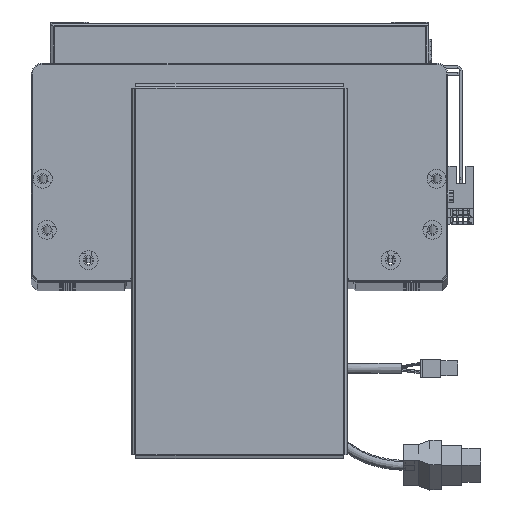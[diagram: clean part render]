
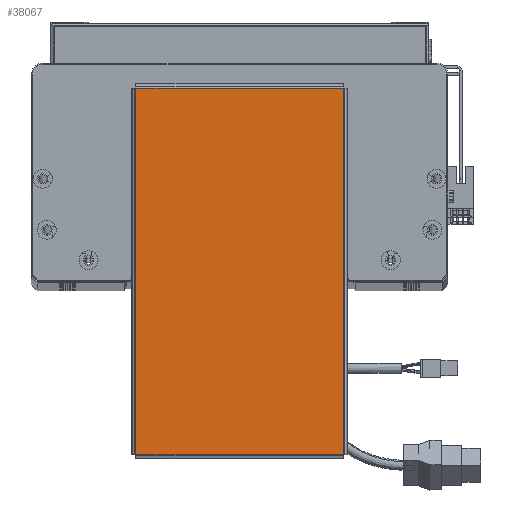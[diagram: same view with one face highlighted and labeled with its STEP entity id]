
A CAD part, top view. The second image highlights one B-rep face of the part: STEP entity #38067.
In plain terms, the highlighted planar face has unit normal (0, 0, 1).
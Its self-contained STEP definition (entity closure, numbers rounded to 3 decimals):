
#2872 = DIRECTION ( 'NONE',  ( -1., 0., 0. ) ) ;
#4561 = CARTESIAN_POINT ( 'NONE',  ( -96.763, -54.763, 0. ) ) ;
#5251 = CARTESIAN_POINT ( 'NONE',  ( 96.763, -54.763, 0. ) ) ;
#7322 = DIRECTION ( 'NONE',  ( 1., 0., 0. ) ) ;
#9281 = DIRECTION ( 'NONE',  ( 1., 0., 0. ) ) ;
#11902 = AXIS2_PLACEMENT_3D ( 'NONE', #70924, #59949, #9281 ) ;
#13736 = EDGE_CURVE ( 'NONE', #14712, #25915, #43880, .T. ) ;
#14071 = ORIENTED_EDGE ( 'NONE', *, *, #13736, .T. ) ;
#14712 = VERTEX_POINT ( 'NONE', #32446 ) ;
#14713 = EDGE_CURVE ( 'NONE', #40163, #17077, #29717, .T. ) ;
#17077 = VERTEX_POINT ( 'NONE', #69444 ) ;
#22644 = VECTOR ( 'NONE', #2872, 1000. ) ;
#22908 = DIRECTION ( 'NONE',  ( 0., -1., 0. ) ) ;
#22988 = CARTESIAN_POINT ( 'NONE',  ( 96.793, 54.763, 0. ) ) ;
#25628 = PLANE ( 'NONE',  #11902 ) ;
#25915 = VERTEX_POINT ( 'NONE', #4561 ) ;
#26994 = CARTESIAN_POINT ( 'NONE',  ( 96.763, -54.793, 0. ) ) ;
#29717 = LINE ( 'NONE', #26994, #71785 ) ;
#32446 = CARTESIAN_POINT ( 'NONE',  ( -96.763, 54.763, 0. ) ) ;
#35050 = EDGE_CURVE ( 'NONE', #25915, #40163, #67475, .T. ) ;
#37856 = DIRECTION ( 'NONE',  ( 0., 1., 0. ) ) ;
#37999 = EDGE_CURVE ( 'NONE', #17077, #14712, #49697, .T. ) ;
#38067 = ADVANCED_FACE ( 'NONE', ( #60309 ), #25628, .T. ) ;
#40163 = VERTEX_POINT ( 'NONE', #5251 ) ;
#40898 = CARTESIAN_POINT ( 'NONE',  ( -96.793, -54.763, 0. ) ) ;
#43880 = LINE ( 'NONE', #45931, #67570 ) ;
#45483 = ORIENTED_EDGE ( 'NONE', *, *, #35050, .T. ) ;
#45931 = CARTESIAN_POINT ( 'NONE',  ( -96.763, 54.793, 0. ) ) ;
#46850 = ORIENTED_EDGE ( 'NONE', *, *, #37999, .T. ) ;
#49697 = LINE ( 'NONE', #22988, #22644 ) ;
#49989 = EDGE_LOOP ( 'NONE', ( #45483, #60458, #46850, #14071 ) ) ;
#56931 = VECTOR ( 'NONE', #7322, 1000. ) ;
#59949 = DIRECTION ( 'NONE',  ( 0., 0., 1. ) ) ;
#60309 = FACE_OUTER_BOUND ( 'NONE', #49989, .T. ) ;
#60458 = ORIENTED_EDGE ( 'NONE', *, *, #14713, .T. ) ;
#67475 = LINE ( 'NONE', #40898, #56931 ) ;
#67570 = VECTOR ( 'NONE', #22908, 1000. ) ;
#69444 = CARTESIAN_POINT ( 'NONE',  ( 96.763, 54.763, 0. ) ) ;
#70924 = CARTESIAN_POINT ( 'NONE',  ( 0., 0., 0. ) ) ;
#71785 = VECTOR ( 'NONE', #37856, 1000. ) ;
